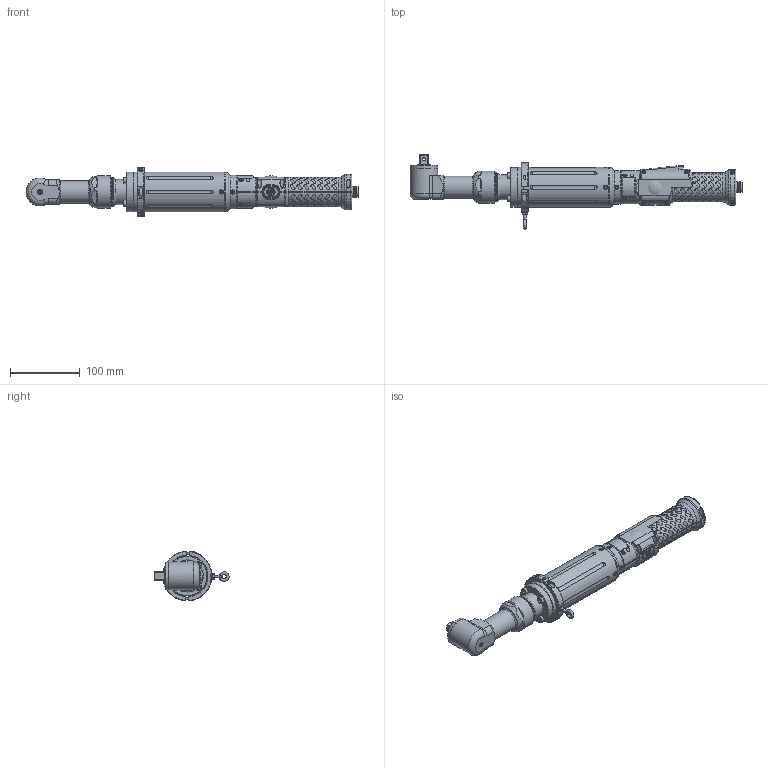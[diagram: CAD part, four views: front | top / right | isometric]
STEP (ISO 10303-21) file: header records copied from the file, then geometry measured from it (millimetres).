
FILE_DESCRIPTION (( 'STEP AP214' ), '1' );
FILE_NAME ('135045-A KDS PL45ANG -IMP. PL REV1.STEP', '2026-04-10T12:33:44', ( '' ), ( '' ), 'SwSTEP 2.0', 'SolidWorks 2024', '' );
FILE_SCHEMA (( 'AUTOMOTIVE_DESIGN' ));
Length unit declared in the file: millimetre
Products named in the file (1): 135045-A KDS PL45ANG -IMP. PL REV1
Bounding box: 476.2 x 106.38 x 70.95 mm (x, y, z)
Surface area: 106924.4 mm2 (no closed solid volume)
Topology: 0 solids, 82 shells, 1015 faces, 3015 edges, 2047 vertices
Faces by surface type: cylinder 319, bspline 298, plane 246, cone 78, torus 58, sphere 16
Full cylindrical faces by diameter (mm): 1 x10, 3 x4, 4 x3, 4.2 x1, 5.004 x4, 5.1 x2, 5.5 x18, 6 x6, 7 x1, 8.4 x4, 9.6 x1, 11.8 x1, 12 x1, 14.85 x2, 16 x1, 17 x1, 18 x1, 24.2 x1, 24.72 x1, 32 x1, 35 x1, 35.5 x1, 36 x1, 40 x2, 46 x1, 48 x1, 57 x3
Entity records: 84447 total; most frequent: CARTESIAN_POINT 50249, ORIENTED_EDGE 4600, DIRECTION 3899, EDGE_CURVE 2805, VERTEX_POINT 1990, AXIS2_PLACEMENT_3D 1615, EDGE_LOOP 1316, B_SPLINE_CURVE_WITH_KNOTS 1198
